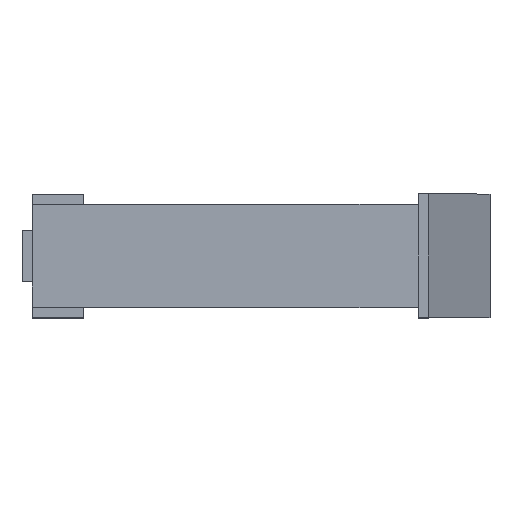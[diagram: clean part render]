
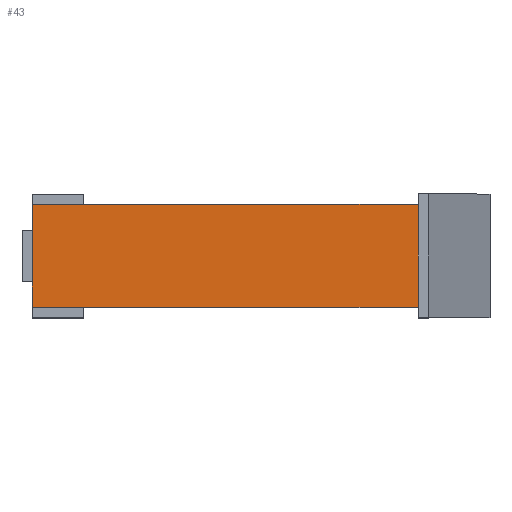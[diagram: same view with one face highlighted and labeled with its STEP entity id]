
A CAD part, top view. The second image highlights one B-rep face of the part: STEP entity #43.
In plain terms, the highlighted planar face has unit normal (0, 0, 1).
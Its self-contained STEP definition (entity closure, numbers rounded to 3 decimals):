
#43=ADVANCED_FACE('',(#120),#1012,.T.);
#120=FACE_OUTER_BOUND('',#205,.T.);
#205=EDGE_LOOP('',(#313,#314,#315,#316));
#313=ORIENTED_EDGE('',*,*,#585,.T.);
#314=ORIENTED_EDGE('',*,*,#589,.T.);
#315=ORIENTED_EDGE('',*,*,#592,.T.);
#316=ORIENTED_EDGE('',*,*,#594,.T.);
#585=EDGE_CURVE('',#892,#891,#786,.T.);
#589=EDGE_CURVE('',#891,#894,#790,.T.);
#592=EDGE_CURVE('',#894,#896,#793,.T.);
#594=EDGE_CURVE('',#896,#892,#795,.T.);
#786=B_SPLINE_CURVE_WITH_KNOTS('',1,(#1390,#1391),.UNSPECIFIED.,.F.,.F.,
(2,2),(0.,200.),.UNSPECIFIED.);
#790=B_SPLINE_CURVE_WITH_KNOTS('',1,(#1398,#1399),.UNSPECIFIED.,.F.,.F.,
(2,2),(200.,760.),.UNSPECIFIED.);
#793=B_SPLINE_CURVE_WITH_KNOTS('',1,(#1404,#1405),.UNSPECIFIED.,.F.,.F.,
(2,2),(760.,960.),.UNSPECIFIED.);
#795=B_SPLINE_CURVE_WITH_KNOTS('',1,(#1408,#1409),.UNSPECIFIED.,.F.,.F.,
(2,2),(960.,1520.),.UNSPECIFIED.);
#891=VERTEX_POINT('',#1348);
#892=VERTEX_POINT('',#1349);
#894=VERTEX_POINT('',#1351);
#896=VERTEX_POINT('',#1353);
#1012=PLANE('',#1161);
#1161=AXIS2_PLACEMENT_3D('',#1321,#1241,$);
#1241=DIRECTION('',(0.,0.,1.));
#1321=CARTESIAN_POINT('',(896.28,130.,852.));
#1348=CARTESIAN_POINT('',(896.28,-70.,852.));
#1349=CARTESIAN_POINT('',(896.28,130.,852.));
#1351=CARTESIAN_POINT('',(1646.28,-70.,852.));
#1353=CARTESIAN_POINT('',(1646.28,130.,852.));
#1390=CARTESIAN_POINT('',(896.28,130.,852.));
#1391=CARTESIAN_POINT('',(896.28,-70.,852.));
#1398=CARTESIAN_POINT('',(896.28,-70.,852.));
#1399=CARTESIAN_POINT('',(1646.28,-70.,852.));
#1404=CARTESIAN_POINT('',(1646.28,-70.,852.));
#1405=CARTESIAN_POINT('',(1646.28,130.,852.));
#1408=CARTESIAN_POINT('',(1646.28,130.,852.));
#1409=CARTESIAN_POINT('',(896.28,130.,852.));
